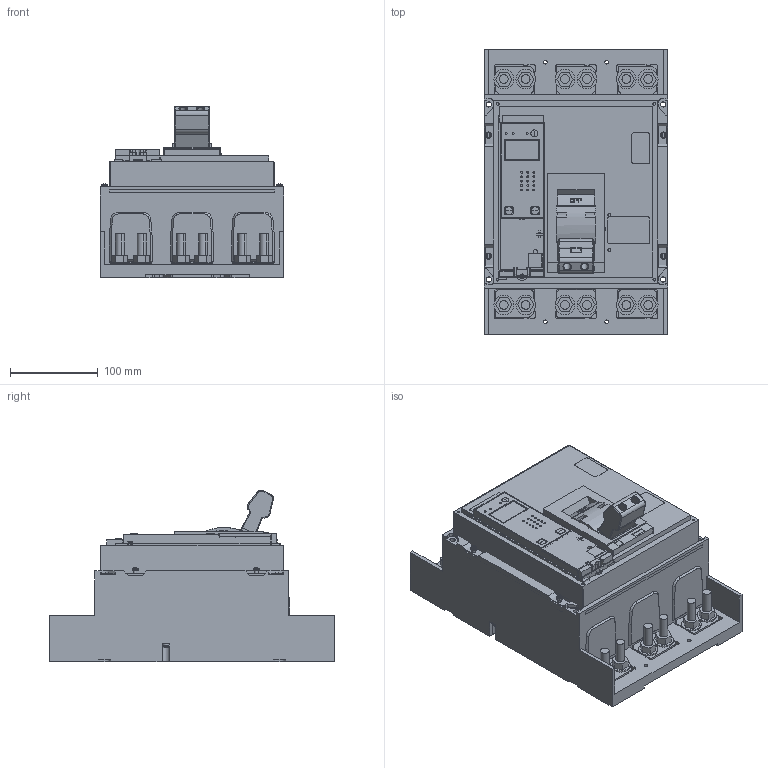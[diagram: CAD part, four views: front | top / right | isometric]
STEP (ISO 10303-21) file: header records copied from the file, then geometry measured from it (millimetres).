
FILE_DESCRIPTION((''),'2;1');
FILE_NAME('1649235669394_ASM','2022-04-06T14:31:37',('SESA621925'),('Schneider-Electric'),'CREO PARAMETRIC BY PTC INC, 2019471','CREO PARAMETRIC BY PTC INC, 2019471','');
FILE_SCHEMA(('AP242_MANAGED_MODEL_BASED_3D_ENGINEERING_MIM_LF { 1 0 10303 442 1 1 4 }'));
Products named in the file (12): EMPTYNODE_1649235669548_ASM; C063N320FM; C063N320FM-3D_ASM; COVER-ASSY-C063N320FM_C_1; COVER-ASSY-C063N320FM-3D_ASM; HANDLE-ASSY-C063N320FM; HANDLE-ASSY-C063N320FM-3D_ASM; 35058; 0444320800; 35058_ASM; 35058-3D_ASM; 1649235669394_ASM
Assembly tree (11 placements, depth 4):
  1649235669394_ASM
    EMPTYNODE_1649235669548_ASM
    C063N320FM-3D_ASM
      C063N320FM
    COVER-ASSY-C063N320FM-3D_ASM
      COVER-ASSY-C063N320FM_C_1
    HANDLE-ASSY-C063N320FM-3D_ASM
      HANDLE-ASSY-C063N320FM
    35058-3D_ASM
      35058_ASM
        35058
        0444320800
Bounding box: 210 x 326.53 x 196.18 mm (x, y, z)
Volume: 5439812.8 mm3; surface area: 557142.1 mm2
Topology: 11 solids, 13 shells, 2439 faces, 6700 edges, 4445 vertices
Faces by surface type: plane 1735, cylinder 572, bspline 42, torus 38, extrusion 26, cone 20, sphere 6
Entity records: 112547 total; most frequent: CARTESIAN_POINT 17029, ORIENTED_EDGE 13326, DIRECTION 12662, PRESENTATION_STYLE_ASSIGNMENT 7648, STYLED_ITEM 6731, CURVE_STYLE 6705, EDGE_CURVE 6663, VECTOR 5050
